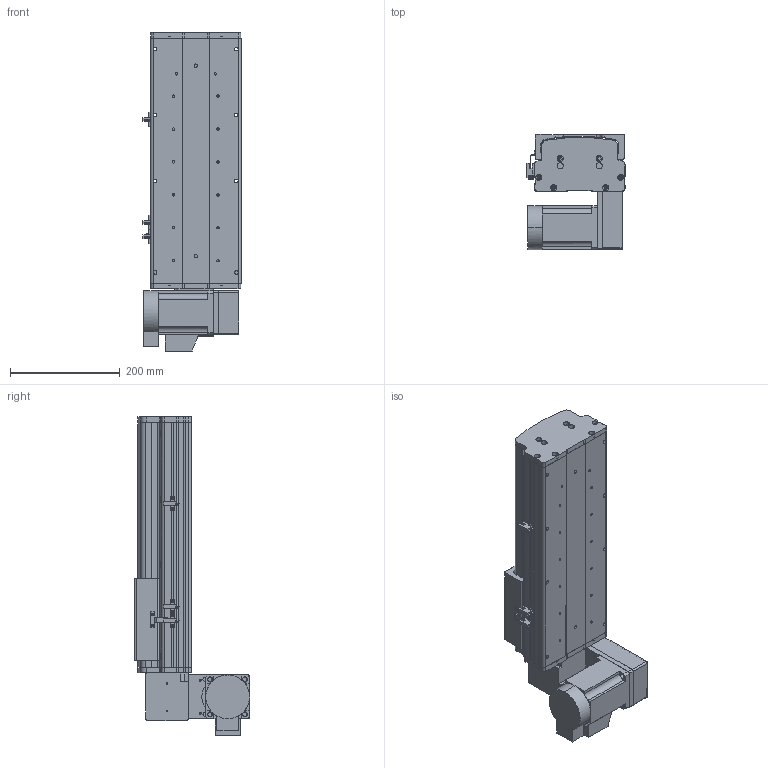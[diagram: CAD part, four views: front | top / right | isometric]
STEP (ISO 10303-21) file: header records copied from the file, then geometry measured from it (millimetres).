
FILE_DESCRIPTION (( 'STEP AP214' ), '1' );
FILE_NAME ('KSD165B-S200-MRD-CM.STEP', '2017-10-16T09:13:45', ( '微软用户' ), ( '微软中国' ), 'SwSTEP 2.0', 'SolidWorks 2014', '' );
FILE_SCHEMA (( 'AUTOMOTIVE_DESIGN' ));
Length unit declared in the file: millimetre
Products named in the file (17): KSD165B-S200-MRD-CM; 130宽模组马达安装板连板上下折丝杆同步带; 130宽模组保护罩上下左右折-同步带; HTPA26S5M250-A-H8 750W萇儂蚚; HTPA26S5M250-A-H8 400W萇儂蚚 ; KSD165模组-同步带防尘盖1-200行程-最新版; KSD165模组同步带底板-200行程-最新; 拸秶雄ん750W侜督萇儂; 165宽马达安装板同步带右; U倰嫖萇假蚾璃; U倰嫖萇EEㄜSX672; 覜茼え68遵圉猾敕; KSD165模组-同步带-防撞垫2; KSD165模组同步带-防撞垫1; KSD165耀郪-ヶ傷啣1-肮祭湍; KSD165模组-后端板1-同步带; KSD165模组-同步带滑动座-最新版
Assembly tree (20 placements, depth 2):
  KSD165B-S200-MRD-CM
    KSD165模组-同步带滑动座-最新版
    KSD165模组-后端板1-同步带
    KSD165耀郪-ヶ傷啣1-肮祭湍
    KSD165模组同步带-防撞垫1
    KSD165模组-同步带-防撞垫2
    覜茼え68遵圉猾敕
    U倰嫖萇EEㄜSX672  x3
    U倰嫖萇假蚾璃  x3
    165宽马达安装板同步带右
    拸秶雄ん750W侜督萇儂
    KSD165模组同步带底板-200行程-最新
    KSD165模组-同步带防尘盖1-200行程-最新版
    HTPA26S5M250-A-H8 400W萇儂蚚 
    HTPA26S5M250-A-H8 750W萇儂蚚
    130宽模组保护罩上下左右折-同步带
    130宽模组马达安装板连板上下折丝杆同步带
Bounding box: 178.7 x 210 x 580.5 mm (x, y, z)
Volume: 4308456.4 mm3; surface area: 989644.4 mm2
Topology: 21 solids, 21 shells, 1849 faces, 5202 edges, 3392 vertices
Faces by surface type: cylinder 1163, plane 574, cone 112
Entity records: 58972 total; most frequent: CARTESIAN_POINT 12088, DIRECTION 9782, ORIENTED_EDGE 9064, EDGE_CURVE 4532, AXIS2_PLACEMENT_3D 3820, VERTEX_POINT 2984, CIRCLE 2168, LINE 2142
